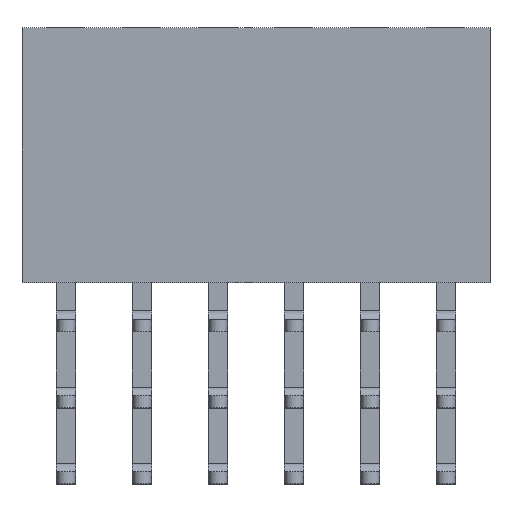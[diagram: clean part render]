
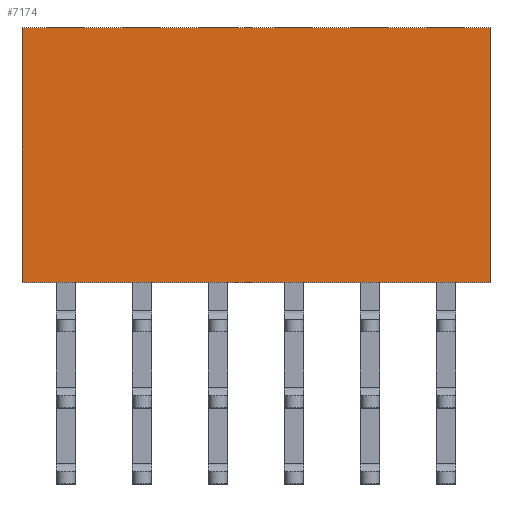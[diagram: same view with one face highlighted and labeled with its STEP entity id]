
A CAD part, top view. The second image highlights one B-rep face of the part: STEP entity #7174.
In plain terms, the highlighted planar face has unit normal (0, 0, 1).
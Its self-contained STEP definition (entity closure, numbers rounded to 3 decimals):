
#37 = DIRECTION ( 'NONE',  ( 1., 0., 0. ) ) ;
#324 = CARTESIAN_POINT ( 'NONE',  ( -15.24, 0., 1.25 ) ) ;
#569 = VECTOR ( 'NONE', #9393, 1000. ) ;
#1270 = CARTESIAN_POINT ( 'NONE',  ( 25.8, 0., 1.25 ) ) ;
#1746 = EDGE_LOOP ( 'NONE', ( #5374, #9153, #5817, #5304 ) ) ;
#2019 = DIRECTION ( 'NONE',  ( 0., 0., 1. ) ) ;
#2153 = CARTESIAN_POINT ( 'NONE',  ( 25.8, 0., 1.25 ) ) ;
#2551 = CARTESIAN_POINT ( 'NONE',  ( 30.48, 0., 1.25 ) ) ;
#2685 = LINE ( 'NONE', #2740, #569 ) ;
#2740 = CARTESIAN_POINT ( 'NONE',  ( 10.16, 0., 1.25 ) ) ;
#2792 = FACE_OUTER_BOUND ( 'NONE', #1746, .T. ) ;
#3472 = LINE ( 'NONE', #2551, #4253 ) ;
#3658 = DIRECTION ( 'NONE',  ( 1., 0., 0. ) ) ;
#3865 = EDGE_CURVE ( 'NONE', #5504, #5793, #6687, .T. ) ;
#4253 = VECTOR ( 'NONE', #37, 1000. ) ;
#4546 = CARTESIAN_POINT ( 'NONE',  ( 10.16, 8.5, 1.25 ) ) ;
#4977 = CARTESIAN_POINT ( 'NONE',  ( 25.8, 8.5, 1.25 ) ) ;
#4993 = CARTESIAN_POINT ( 'NONE',  ( 30.48, 8.5, 1.25 ) ) ;
#5195 = CARTESIAN_POINT ( 'NONE',  ( 10.16, 0., 1.25 ) ) ;
#5304 = ORIENTED_EDGE ( 'NONE', *, *, #6349, .F. ) ;
#5374 = ORIENTED_EDGE ( 'NONE', *, *, #5411, .T. ) ;
#5411 = EDGE_CURVE ( 'NONE', #10444, #9617, #3472, .T. ) ;
#5504 = VERTEX_POINT ( 'NONE', #4546 ) ;
#5793 = VERTEX_POINT ( 'NONE', #4977 ) ;
#5817 = ORIENTED_EDGE ( 'NONE', *, *, #3865, .F. ) ;
#6230 = LINE ( 'NONE', #1270, #7974 ) ;
#6349 = EDGE_CURVE ( 'NONE', #10444, #5504, #2685, .T. ) ;
#6628 = DIRECTION ( 'NONE',  ( 1., 0., 0. ) ) ;
#6687 = LINE ( 'NONE', #4993, #10517 ) ;
#7166 = AXIS2_PLACEMENT_3D ( 'NONE', #324, #2019, #3658 ) ;
#7174 = ADVANCED_FACE ( 'NONE', ( #2792 ), #7797, .T. ) ;
#7797 = PLANE ( 'NONE',  #7166 ) ;
#7921 = DIRECTION ( 'NONE',  ( 0., 1., 0. ) ) ;
#7974 = VECTOR ( 'NONE', #7921, 1000. ) ;
#8490 = EDGE_CURVE ( 'NONE', #9617, #5793, #6230, .T. ) ;
#9153 = ORIENTED_EDGE ( 'NONE', *, *, #8490, .T. ) ;
#9393 = DIRECTION ( 'NONE',  ( 0., 1., 0. ) ) ;
#9617 = VERTEX_POINT ( 'NONE', #2153 ) ;
#10444 = VERTEX_POINT ( 'NONE', #5195 ) ;
#10517 = VECTOR ( 'NONE', #6628, 1000. ) ;
